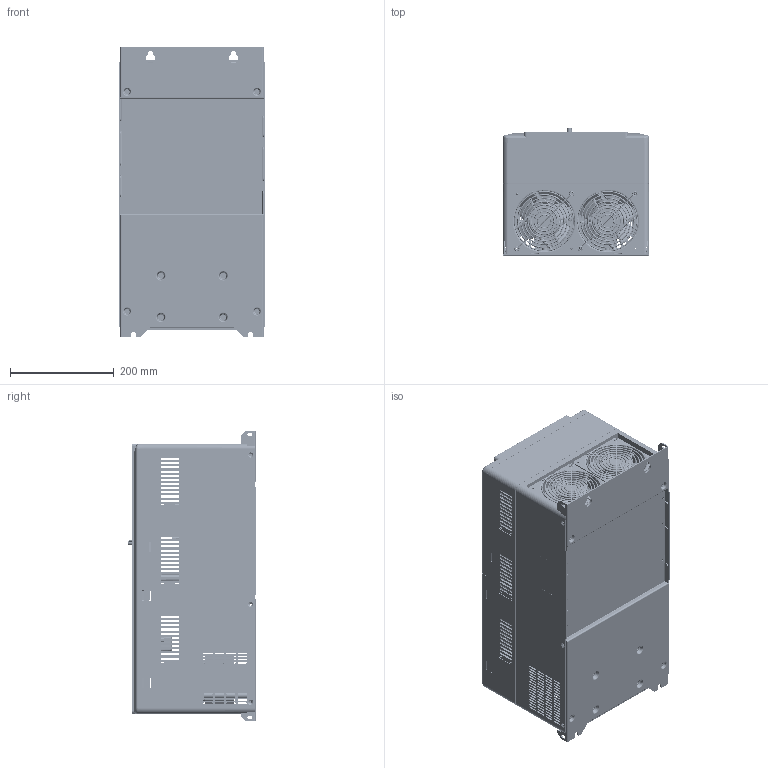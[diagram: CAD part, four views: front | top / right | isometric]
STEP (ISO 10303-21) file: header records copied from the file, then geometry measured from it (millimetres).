
FILE_DESCRIPTION((''),'2;1');
FILE_NAME('GD100-055G-4_ASM','2016-12-13T',('Administrator'),(''),'PRO/ENGINEER BY PARAMETRIC TECHNOLOGY CORPORATION, 2010100','PRO/ENGINEER BY PARAMETRIC TECHNOLOGY CORPORATION, 2010100','');
FILE_SCHEMA(('CONFIG_CONTROL_DESIGN'));
Products named in the file (17): 80710015; 80740140; 80880255; 80810065; 80810064; 2-21-12-123-4C-230HBT; 80310386; S-M4-ZC; 80310386_ASM; REACTOR-055; 80810010; 80710012; LD100-JP-PCB; 80740127; GD100-JP_ASM; FENGSHANWANG_S; GD100-055G-4_ASM
Assembly tree (23 placements, depth 3):
  GD100-055G-4_ASM
    80710015
    80740140
    80880255
    80810065
    80810064
    2-21-12-123-4C-230HBT  x2
    80310386_ASM
      80310386
      S-M4-ZC  x6
    REACTOR-055
    GD100-JP_ASM
      80810010
      80710012
      LD100-JP-PCB
      80740127
    FENGSHANWANG_S  x2
Bounding box: 282 x 244.85 x 560 mm (x, y, z)
Volume: 4451221.3 mm3; surface area: 2715911.5 mm2
Topology: 21 solids, 21 shells, 12342 faces, 34569 edges, 22464 vertices
Faces by surface type: plane 7954, cylinder 2862, torus 579, cone 392, bspline 319, extrusion 174, revolution 32, sphere 30
Entity records: 403029 total; most frequent: CARTESIAN_POINT 94527, ORIENTED_EDGE 66496, DIRECTION 60635, EDGE_CURVE 33248, VECTOR 24361, LINE 24201, VERTEX_POINT 21655, AXIS2_PLACEMENT_3D 18129
